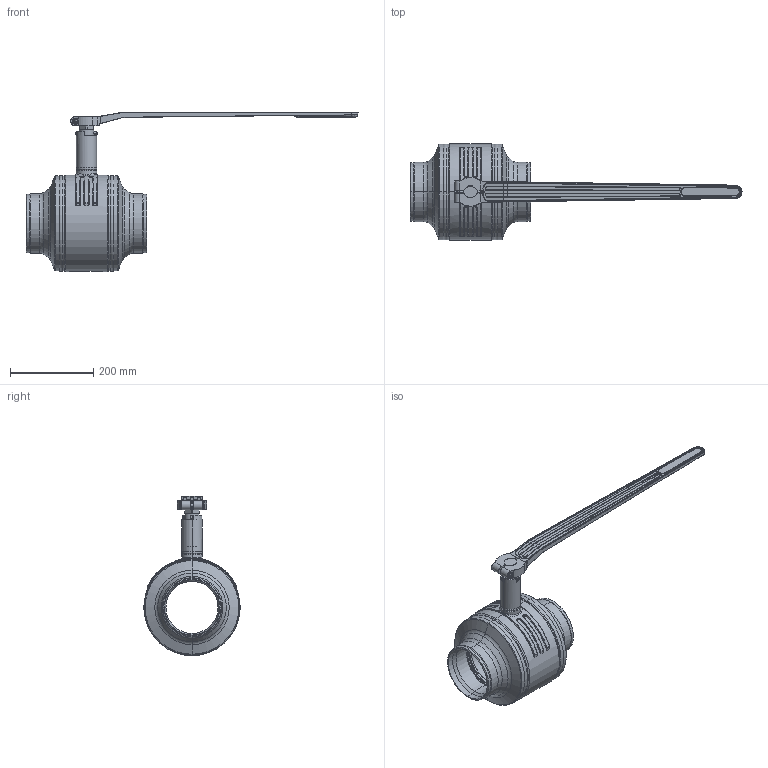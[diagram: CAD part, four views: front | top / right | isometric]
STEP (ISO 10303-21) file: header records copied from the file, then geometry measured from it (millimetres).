
FILE_DESCRIPTION((''),'2;1');
FILE_NAME('KHMO-S-V-H-125P040-VI_SW0001','2022-10-19T08:28:34',('jeitlers'),('KLINGER'),'CREO PARAMETRIC BY PTC INC, 2020184','CREO PARAMETRIC BY PTC INC, 2020184','');
FILE_SCHEMA(('AUTOMOTIVE_DESIGN { 1 0 10303 214 1 1 1 1 }'));
Length unit declared in the file: millimetre
Products named in the file (1): KHMO-S-V-H-125P040-VI_SW0001
Bounding box: 795.76 x 231 x 381.5 mm (x, y, z)
Volume: 3442859 mm3; surface area: 876146.2 mm2
Topology: 2 solids, 2 shells, 946 faces, 2268 edges, 1315 vertices
Faces by surface type: cylinder 285, bspline 206, torus 170, plane 168, cone 94, sphere 12, extrusion 10, revolution 1
Entity records: 69032 total; most frequent: CARTESIAN_POINT 47132, ORIENTED_EDGE 4486, DIRECTION 4292, EDGE_CURVE 2243, AXIS2_PLACEMENT_3D 1803, VERTEX_POINT 1315, CIRCLE 1056, EDGE_LOOP 986
